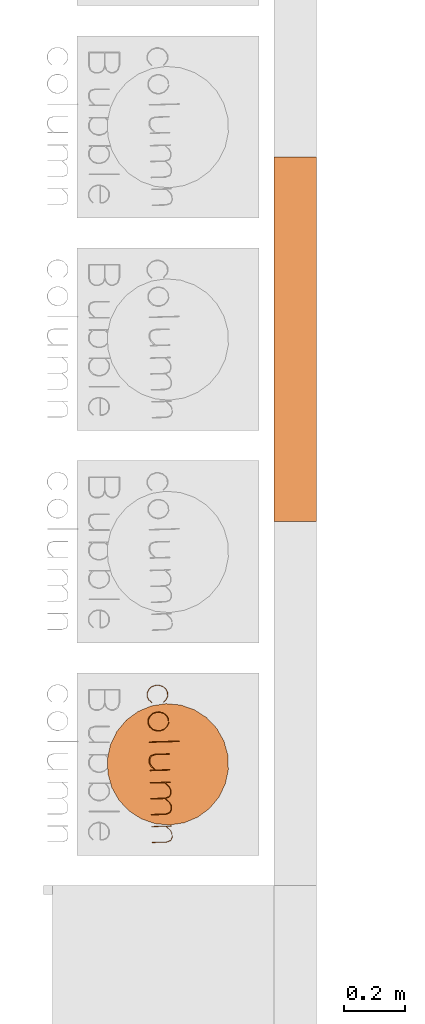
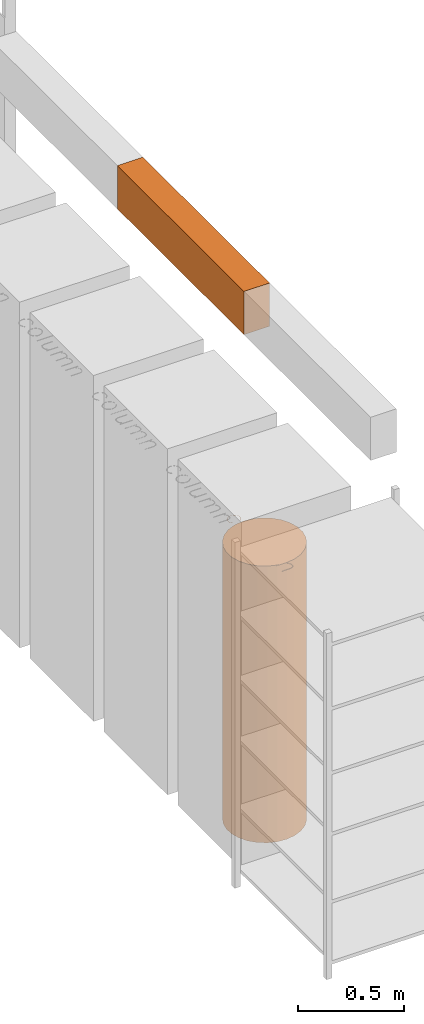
# One storey, part 7 of 43: 2 proxies.
"""IFC2X3 building model written with IfcOpenShell, lengths in metres."""

from ifc_helpers import new_model, entity, si_unit, converted_unit, derived_unit, direction, frame, frame_2d, origin, origin_2d_with_axis, place, context, subcontext, project, spatial, rectangle, extrude, face_set, surface_model, source, transform, mapped, material, material_list, type_object, type_shapes, element, save


model = new_model("IFC2X3")

# Units and contexts
model_context = context("Model", 3, precision=1e-05, world=origin(), true_north=direction((6.12303176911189e-17, 1.0)))
body_context = subcontext(model_context, "Body", "Model", "MODEL_VIEW")
ifc_project = project(units=[si_unit("LENGTHUNIT", "METRE"), si_unit("AREAUNIT", "SQUARE_METRE"), si_unit("VOLUMEUNIT", "CUBIC_METRE"), converted_unit("PLANEANGLEUNIT", "DEGREE", entity("IfcRatioMeasure", 0.0174532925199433), si_unit("PLANEANGLEUNIT", "RADIAN"), dimensions=[0, 0, 0, 0, 0, 0, 0]), si_unit("MASSUNIT", "GRAM", prefix="KILO"), derived_unit("MASSDENSITYUNIT", [(si_unit("MASSUNIT", "GRAM", prefix="KILO"), 1), (si_unit("LENGTHUNIT", "METRE"), -3)]), derived_unit("MOMENTOFINERTIAUNIT", [(si_unit("LENGTHUNIT", "METRE"), 4)]), si_unit("TIMEUNIT", "SECOND"), si_unit("FREQUENCYUNIT", "HERTZ"), si_unit("THERMODYNAMICTEMPERATUREUNIT", "DEGREE_CELSIUS"), derived_unit("THERMALTRANSMITTANCEUNIT", [(si_unit("MASSUNIT", "GRAM", prefix="KILO"), 1), (si_unit("THERMODYNAMICTEMPERATUREUNIT", "KELVIN"), -1), (si_unit("TIMEUNIT", "SECOND"), -3)]), derived_unit("VOLUMETRICFLOWRATEUNIT", [(si_unit("LENGTHUNIT", "METRE"), 3), (si_unit("TIMEUNIT", "SECOND"), -1)]), si_unit("ELECTRICCURRENTUNIT", "AMPERE"), si_unit("ELECTRICVOLTAGEUNIT", "VOLT"), si_unit("POWERUNIT", "WATT"), si_unit("FORCEUNIT", "NEWTON", prefix="KILO"), si_unit("ILLUMINANCEUNIT", "LUX"), si_unit("LUMINOUSFLUXUNIT", "LUMEN"), si_unit("LUMINOUSINTENSITYUNIT", "CANDELA"), derived_unit("USERDEFINED", [(si_unit("MASSUNIT", "GRAM", prefix="KILO"), -1), (si_unit("LENGTHUNIT", "METRE"), -2), (si_unit("TIMEUNIT", "SECOND"), 3), (si_unit("LUMINOUSFLUXUNIT", "LUMEN"), 1)]), derived_unit("LINEARVELOCITYUNIT", [(si_unit("LENGTHUNIT", "METRE"), 1), (si_unit("TIMEUNIT", "SECOND"), -1)]), si_unit("PRESSUREUNIT", "PASCAL"), derived_unit("USERDEFINED", [(si_unit("LENGTHUNIT", "METRE"), -2), (si_unit("MASSUNIT", "GRAM", prefix="KILO"), 1), (si_unit("TIMEUNIT", "SECOND"), -2)]), derived_unit("LINEARFORCEUNIT", [(si_unit("MASSUNIT", "GRAM", prefix="KILO"), 1), (si_unit("LENGTHUNIT", "METRE"), 1), (si_unit("TIMEUNIT", "SECOND"), -2), (si_unit("LENGTHUNIT", "METRE"), -1)]), derived_unit("PLANARFORCEUNIT", [(si_unit("MASSUNIT", "GRAM", prefix="KILO"), 1), (si_unit("LENGTHUNIT", "METRE"), 1), (si_unit("TIMEUNIT", "SECOND"), -2), (si_unit("LENGTHUNIT", "METRE"), -2)])], contexts=[model_context])

# Site, building, storey
site_placement = place(None, origin())
site = spatial("IfcSite", under=ifc_project, at=site_placement, Name="Default", CompositionType="ELEMENT")
building_placement = place(site_placement, origin())
building = spatial("IfcBuilding", under=site, at=building_placement, CompositionType="ELEMENT")
storey_placement = place(building_placement, frame((0.0, 0.0, 3.0)))
storey = spatial("IfcBuildingStorey", under=building, at=storey_placement, Name="01 OG", CompositionType="ELEMENT", Elevation=3.0)

# Proxies
ifc_material_1 = material(Name="dh_EZ blau")
ifc_material_2 = material(Name="dh_Weiß")
ifc_material_list_1 = material_list([ifc_material_1, ifc_material_2])
ifc_material_3 = material(Name="dh_Blau")
ifc_material_list_2 = material_list([ifc_material_2, ifc_material_3, ifc_material_1])
building_element_proxy_type_1 = type_object("IfcBuildingElementProxyType", Name="dh_Einzel_ MEK:MEK 120", PredefinedType="NOTDEFINED", material=ifc_material_list_2)
shared_shape_1 = source(origin(), body_context, "Body", "SweptSolid", [
    extrude(rectangle(XDim=0.06, YDim=0.0299999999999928, at=origin_2d_with_axis()), frame((0.585000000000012, 0.33, 2.19499999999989), z_axis=(0.0, 0.0, 1.0), x_axis=(0.0, 1.0, 0.0)), (0.0, 0.0, 1.0), 0.240000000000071),
    extrude(rectangle(XDim=0.06, YDim=0.0299999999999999, at=origin_2d_with_axis()), frame((-0.584999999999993, 0.33, 2.19499999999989), z_axis=(0.0, 0.0, 1.0), x_axis=(0.0, 1.0, 0.0)), (0.0, 0.0, 1.0), 0.240000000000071),
    extrude(rectangle(XDim=0.06, YDim=1.20000000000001, at=frame_2d((0.0, -2.05391259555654e-15), x_axis=(1.0, 0.0))), frame((0.0, 0.33, 2.43499999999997), z_axis=(0.0, 0.0, 1.0), x_axis=(0.0, 1.0, 0.0)), (0.0, 0.0, 1.0), 0.00500000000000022),
    extrude(rectangle(XDim=1.20000000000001, YDim=0.14, at=frame_2d((-3.21964677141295e-15, -0.00333333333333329), x_axis=(1.0, 0.0))), frame((0.0, 0.293333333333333, 2.18999999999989)), (0.0, 0.0, 1.0), 0.00499999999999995),
    extrude(rectangle(XDim=0.08, YDim=1.20000000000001, at=frame_2d((0.0133333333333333, 2.55351295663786e-15), x_axis=(1.0, 0.0))), frame((0.0, 0.273333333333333, 2.43499999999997), z_axis=(0.0, 0.0, 1.0), x_axis=(0.0, -1.0, 0.0)), (0.0, 0.0, 1.0), 0.00499999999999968),
    extrude(rectangle(XDim=1.2, YDim=0.08, at=frame_2d((0.0, 3.46944695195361e-17), x_axis=(1.0, 0.0))), frame((0.0, 0.26, 2.195), z_axis=(0.0, 0.0, 1.0), x_axis=(-1.0, 0.0, 0.0)), (0.0, 0.0, 1.0), 0.239999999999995),
])
type_shapes(building_element_proxy_type_1, [shared_shape_1])
proxy_1_placement = place(storey_placement, frame((16.6900000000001, 13.0239999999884, 0.7), z_axis=(0.0, 0.0, 1.0), x_axis=(0.0, -1.0, 0.0)))
element("IfcBuildingElementProxy", 1, at=proxy_1_placement, inside=storey, type_object=building_element_proxy_type_1, material=ifc_material_list_1, Name="dh_Einzel_ MEK:MEK 120", ObjectType="dh_Einzel_ MEK:MEK 120", context=body_context, shape_type="MappedRepresentation", body=[
    mapped(shared_shape_1, transform((0.0, 0.0, 0.0), scale=1.0)),
])
ifc_material_4 = material(Name="dh_Stellfläche")
ifc_material_5 = material(Name="Kunststoff, undurchsichtig schwarz")
ifc_material_list_3 = material_list([ifc_material_5, ifc_material_4])
building_element_proxy_type_2 = type_object("IfcBuildingElementProxyType", Name="dh_Gerät_Stellfläche Bestand_rund:Nutzergerät", PredefinedType="NOTDEFINED", material=ifc_material_list_3)
shared_shape_2 = source(origin(), body_context, "Body", "SurfaceModel", [
    surface_model("IfcFaceBasedSurfaceModel", [(0.0590362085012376, 0.152937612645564, 1.605), (0.0573721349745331, 0.154601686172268, 1.605), (0.0480021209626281, 0.145154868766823, 1.605), (0.0389137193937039, 0.140572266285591, 1.605), (0.0251659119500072, 0.140572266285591, 1.605), (0.0160519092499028, 0.145154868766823, 1.605), (0.00675869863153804, 0.154345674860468, 1.605), (0.00217609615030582, 0.168247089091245, 1.605), (0.00217609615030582, 0.177489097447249, 1.605), (0.00675869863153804, 0.191416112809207, 1.605), (0.0160519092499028, 0.200530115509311, 1.605), (0.0251659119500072, 0.205189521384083, 1.605), (0.0389137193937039, 0.205189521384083, 1.605), (0.0480021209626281, 0.200530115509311, 1.605), (0.0573721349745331, 0.191134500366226, 1.605), (0.0590362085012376, 0.19274737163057, 1.605), (0.0493333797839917, 0.202450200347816, 1.605), (0.0394257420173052, 0.207314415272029, 1.605), (0.0246282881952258, 0.207314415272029, 1.605), (0.0146694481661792, 0.202450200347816, 1.605), (0.00491541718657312, 0.192465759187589, 1.605), (0.0, 0.17777070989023, 1.605), (0.0, 0.167914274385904, 1.605), (0.00491541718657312, 0.153219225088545, 1.605), (0.0146694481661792, 0.143285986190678, 1.605), (0.0246282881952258, 0.138498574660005, 1.605), (0.0394257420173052, 0.138498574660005, 1.605), (0.0493333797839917, 0.143285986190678, 1.605), (0.147641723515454, 0.153219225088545, 1.605), (0.152557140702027, 0.167914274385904, 1.605), (0.152557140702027, 0.17777070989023, 1.605), (0.147641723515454, 0.192465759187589, 1.605), (0.137810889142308, 0.202450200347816, 1.605), (0.127903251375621, 0.207314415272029, 1.605), (0.113105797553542, 0.207314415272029, 1.605), (0.103146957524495, 0.202450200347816, 1.605), (0.0933929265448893, 0.192465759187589, 1.605), (0.0884775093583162, 0.17777070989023, 1.605), (0.0884775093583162, 0.167914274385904, 1.605), (0.0933929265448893, 0.153219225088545, 1.605), (0.103146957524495, 0.143285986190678, 1.605), (0.113105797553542, 0.138498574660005, 1.605), (0.127903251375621, 0.138498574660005, 1.605), (0.137810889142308, 0.143285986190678, 1.605), (0.145696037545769, 0.155011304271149, 1.605), (0.136479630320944, 0.145846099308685, 1.605), (0.12739122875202, 0.141263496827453, 1.605), (0.113643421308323, 0.141263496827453, 1.605), (0.104529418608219, 0.145846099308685, 1.605), (0.0952362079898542, 0.155011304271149, 1.605), (0.0906536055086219, 0.168887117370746, 1.605), (0.0906536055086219, 0.178129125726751, 1.605), (0.0952362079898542, 0.192004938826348, 1.605), (0.104529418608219, 0.201093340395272, 1.605), (0.113643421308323, 0.205752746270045, 1.605), (0.12739122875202, 0.205752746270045, 1.605), (0.136479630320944, 0.201093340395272, 1.605), (0.145696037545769, 0.192004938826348, 1.605), (0.150355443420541, 0.178129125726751, 1.605), (0.150355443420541, 0.168887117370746, 1.605), (0.186632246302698, 0.14013704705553, 1.605), (0.188757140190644, 0.14013704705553, 1.605), (0.188757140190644, 0.240083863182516, 1.605), (0.186632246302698, 0.240083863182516, 1.605), (0.279922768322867, 0.156214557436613, 1.605), (0.279922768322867, 0.14013704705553, 1.605), (0.282124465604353, 0.14013704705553, 1.605), (0.282124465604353, 0.207314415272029, 1.605), (0.279922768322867, 0.207314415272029, 1.605), (0.279922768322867, 0.160105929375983, 1.605), (0.26604695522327, 0.146358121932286, 1.605), (0.256958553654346, 0.141775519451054, 1.605), (0.243210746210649, 0.141775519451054, 1.605), (0.234378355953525, 0.146230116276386, 1.605), (0.229718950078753, 0.159849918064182, 1.605), (0.229718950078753, 0.207314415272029, 1.605), (0.227594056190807, 0.207314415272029, 1.605), (0.227594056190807, 0.158723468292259, 1.605), (0.23245827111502, 0.143490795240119, 1.605), (0.242673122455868, 0.138498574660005, 1.605), (0.257496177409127, 0.138498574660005, 1.605), (0.267455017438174, 0.143362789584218, 1.605), (0.320986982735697, 0.14013704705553, 1.605), (0.323111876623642, 0.14013704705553, 1.605), (0.323111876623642, 0.187345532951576, 1.605), (0.337013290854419, 0.201093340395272, 1.605), (0.346152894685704, 0.205752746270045, 1.605), (0.35984949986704, 0.205752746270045, 1.605), (0.368733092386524, 0.201221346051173, 1.605), (0.373315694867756, 0.187627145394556, 1.605), (0.373315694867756, 0.14013704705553, 1.605), (0.375517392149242, 0.14013704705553, 1.605), (0.375517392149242, 0.187345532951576, 1.605), (0.389393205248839, 0.201093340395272, 1.605), (0.398481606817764, 0.205752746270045, 1.605), (0.41222941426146, 0.205752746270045, 1.605), (0.421061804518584, 0.201221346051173, 1.605), (0.425721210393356, 0.187627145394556, 1.605), (0.425721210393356, 0.14013704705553, 1.605), (0.427846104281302, 0.14013704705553, 1.605), (0.427846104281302, 0.187499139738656, 1.605), (0.422981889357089, 0.202373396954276, 1.605), (0.412767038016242, 0.207314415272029, 1.605), (0.397969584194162, 0.207314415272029, 1.605), (0.388010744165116, 0.202501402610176, 1.605), (0.37485176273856, 0.189393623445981, 1.605), (0.370601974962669, 0.202373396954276, 1.605), (0.360438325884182, 0.207314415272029, 1.605), (0.345564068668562, 0.207314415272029, 1.605), (0.335682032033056, 0.202501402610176, 1.605), (0.323111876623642, 0.189931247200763, 1.605), (0.323111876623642, 0.206392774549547, 1.605), (0.320986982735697, 0.206392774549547, 1.605), (0.465172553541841, 0.14013704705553, 1.605), (0.467297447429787, 0.14013704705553, 1.605), (0.467297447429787, 0.187345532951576, 1.605), (0.481198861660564, 0.201093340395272, 1.605), (0.490338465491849, 0.205752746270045, 1.605), (0.504035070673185, 0.205752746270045, 1.605), (0.512918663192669, 0.201221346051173, 1.605), (0.517501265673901, 0.187627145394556, 1.605), (0.517501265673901, 0.14013704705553, 1.605), (0.519702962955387, 0.14013704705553, 1.605), (0.519702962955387, 0.187499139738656, 1.605), (0.514787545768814, 0.202373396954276, 1.605), (0.504623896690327, 0.207314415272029, 1.605), (0.489749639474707, 0.207314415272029, 1.605), (0.479867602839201, 0.202501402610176, 1.605), (0.467297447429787, 0.189931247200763, 1.605), (0.467297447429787, 0.206392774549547, 1.605), (0.465172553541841, 0.206392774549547, 1.605)], [face_set([[[0, 1, 2, 3, 4, 5, 6, 7, 8, 9, 10, 11, 12, 13, 14, 15, 16, 17, 18, 19, 20, 21, 22, 23, 24, 25, 26, 27]]]), face_set([[[28, 29, 30, 31, 32, 33, 34, 35, 36, 37, 38, 39, 40, 41, 42, 43], [44, 45, 46, 47, 48, 49, 50, 51, 52, 53, 54, 55, 56, 57, 58, 59]]]), face_set([[[60, 61, 62, 63]]]), face_set([[[64, 65, 66, 67, 68, 69, 70, 71, 72, 73, 74, 75, 76, 77, 78, 79, 80, 81]]]), face_set([[[82, 83, 84, 85, 86, 87, 88, 89, 90, 91, 92, 93, 94, 95, 96, 97, 98, 99, 100, 101, 102, 103, 104, 105, 106, 107, 108, 109, 110, 111, 112]]]), face_set([[[113, 114, 115, 116, 117, 118, 119, 120, 121, 122, 123, 124, 125, 126, 127, 128, 129, 130]]])]),
    surface_model("IfcFaceBasedSurfaceModel", [(0.462616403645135, 0.200137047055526, 1.6), (0.456804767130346, 0.152273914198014, 1.6), (0.439707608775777, 0.107192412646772, 1.6), (0.412318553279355, 0.067512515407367, 1.6), (0.376229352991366, 0.035540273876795, 1.6), (0.333537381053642, 0.0131337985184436, 1.6), (0.286723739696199, 0.00159527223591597, 1.6), (0.23850906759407, 0.00159527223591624, 1.6), (0.191695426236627, 0.0131337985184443, 1.6), (0.149003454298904, 0.0355402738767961, 1.6), (0.112914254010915, 0.0675125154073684, 1.6), (0.0855251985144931, 0.107192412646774, 1.6), (0.0684280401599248, 0.152273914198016, 1.6), (0.0626164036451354, 0.200137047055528, 1.6), (0.0684280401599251, 0.248000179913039, 1.6), (0.0855251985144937, 0.293081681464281, 1.6), (0.112914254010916, 0.332761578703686, 1.6), (0.149003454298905, 0.364733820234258, 1.6), (0.191695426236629, 0.38714029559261, 1.6), (0.238509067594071, 0.398678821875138, 1.6), (0.2867237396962, 0.398678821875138, 1.6), (0.333537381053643, 0.38714029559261, 1.6), (0.376229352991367, 0.364733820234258, 1.6), (0.412318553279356, 0.332761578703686, 1.6), (0.439707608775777, 0.293081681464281, 1.6), (0.456804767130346, 0.248000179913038, 1.6), (0.462616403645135, 0.200137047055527, 0.0), (0.456804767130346, 0.152273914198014, 0.0), (0.439707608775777, 0.107192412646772, 0.0), (0.412318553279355, 0.067512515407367, 0.0), (0.376229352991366, 0.035540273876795, 0.0), (0.333537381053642, 0.0131337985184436, 0.0), (0.286723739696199, 0.00159527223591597, 0.0), (0.23850906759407, 0.00159527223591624, 0.0), (0.191695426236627, 0.0131337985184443, 0.0), (0.149003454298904, 0.0355402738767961, 0.0), (0.112914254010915, 0.0675125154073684, 0.0), (0.0855251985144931, 0.107192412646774, 0.0), (0.0684280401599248, 0.152273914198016, 0.0), (0.0626164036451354, 0.200137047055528, 0.0), (0.0684280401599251, 0.248000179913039, 0.0), (0.0855251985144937, 0.293081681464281, 0.0), (0.112914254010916, 0.332761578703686, 0.0), (0.149003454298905, 0.364733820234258, 0.0), (0.191695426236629, 0.38714029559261, 0.0), (0.238509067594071, 0.398678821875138, 0.0), (0.2867237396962, 0.398678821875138, 0.0), (0.333537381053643, 0.38714029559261, 0.0), (0.376229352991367, 0.364733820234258, 0.0), (0.412318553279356, 0.332761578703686, 0.0), (0.439707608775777, 0.293081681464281, 0.0), (0.456804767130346, 0.248000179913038, 0.0)], [face_set([[[0, 1, 2, 3, 4, 5, 6, 7, 8, 9, 10, 11, 12, 13, 14, 15, 16, 17, 18, 19, 20, 21, 22, 23, 24, 25]], [[26, 27, 28, 29, 30, 31, 32, 33, 34, 35, 36, 37, 38, 39, 40, 41, 42, 43, 44, 45, 46, 47, 48, 49, 50, 51]], [[13, 39, 38, 12]], [[12, 38, 37, 11]], [[9, 35, 34, 8]], [[10, 36, 35, 9]], [[11, 37, 36, 10]], [[8, 34, 33, 7]], [[7, 33, 32, 6]], [[6, 32, 31, 5]], [[5, 31, 30, 4]], [[2, 28, 27, 1]], [[3, 29, 28, 2]], [[4, 30, 29, 3]], [[1, 27, 26, 0]], [[25, 51, 50, 24]], [[26, 51, 25, 0]], [[22, 48, 47, 21]], [[23, 49, 48, 22]], [[24, 50, 49, 23]], [[21, 47, 46, 20]], [[20, 46, 45, 19]], [[19, 45, 44, 18]], [[18, 44, 43, 17]], [[15, 41, 40, 14]], [[16, 42, 41, 15]], [[17, 43, 42, 16]], [[14, 40, 39, 13]]])]),
])
type_shapes(building_element_proxy_type_2, [shared_shape_2])
proxy_2_placement = place(storey_placement, frame((16.3518515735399, 11.8793466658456, 0.7), z_axis=(0.0, 0.0, 1.0), x_axis=(0.0308691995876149, -0.999523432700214, 0.0)))
element("IfcBuildingElementProxy", 2, at=proxy_2_placement, inside=storey, type_object=building_element_proxy_type_2, material=ifc_material_4, Name="dh_Gerät_Stellfläche Bestand_rund:Nutzergerät", ObjectType="dh_Gerät_Stellfläche Bestand_rund:Nutzergerät", context=body_context, shape_type="MappedRepresentation", body=[
    mapped(shared_shape_2, transform((0.0, 0.0, 0.0), scale=1.0)),
])

save(model, "model.ifc")
